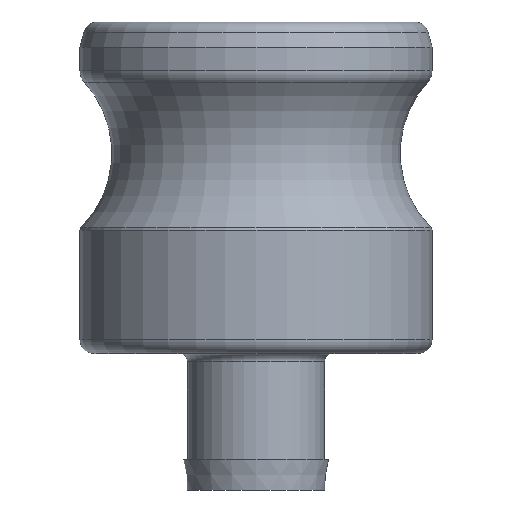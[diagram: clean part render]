
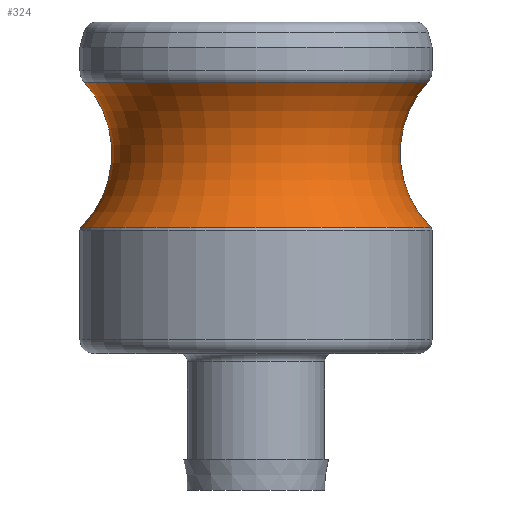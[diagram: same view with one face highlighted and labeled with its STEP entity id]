
A CAD part, front view. The second image highlights one B-rep face of the part: STEP entity #324.
In plain terms, the highlighted toroidal (fillet/blend) face has major radius 22.746 mm and minor radius 9.601 mm.
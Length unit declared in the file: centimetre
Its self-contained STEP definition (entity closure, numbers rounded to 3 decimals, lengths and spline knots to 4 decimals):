
#135=VERTEX_POINT('',#495);
#136=VERTEX_POINT('',#498);
#156=CIRCLE('',#363,1.5962);
#157=CIRCLE('',#365,1.5654);
#177=EDGE_CURVE('',#135,#135,#156,.T.);
#178=EDGE_CURVE('',#136,#136,#157,.T.);
#216=ORIENTED_EDGE('',*,*,#178,.F.);
#217=ORIENTED_EDGE('',*,*,#177,.F.);
#258=EDGE_LOOP('',(#216));
#259=EDGE_LOOP('',(#217));
#300=FACE_BOUND('',#258,.T.);
#301=FACE_BOUND('',#259,.T.);
#324=ADVANCED_FACE('',(#300,#301),#509,.F.);
#363=AXIS2_PLACEMENT_3D('',#494,#430,#431);
#364=AXIS2_PLACEMENT_3D('',#496,#432,$);
#365=AXIS2_PLACEMENT_3D('',#497,#433,#434);
#430=DIRECTION('',(0.,0.,-1.));
#431=DIRECTION('',(0.,-1.596,0.));
#432=DIRECTION('',(0.,0.,1.));
#433=DIRECTION('',(0.,0.,1.));
#434=DIRECTION('',(0.,1.565,0.));
#494=CARTESIAN_POINT('',(0.,0.,-1.8758));
#495=CARTESIAN_POINT('',(0.,1.5962,-1.8758));
#496=CARTESIAN_POINT('',(0.,0.,-1.1963));
#497=CARTESIAN_POINT('',(0.,0.,-0.5491));
#498=CARTESIAN_POINT('',(0.,1.5654,-0.5491));
#509=TOROIDAL_SURFACE('',#364,2.2746,0.9601);
